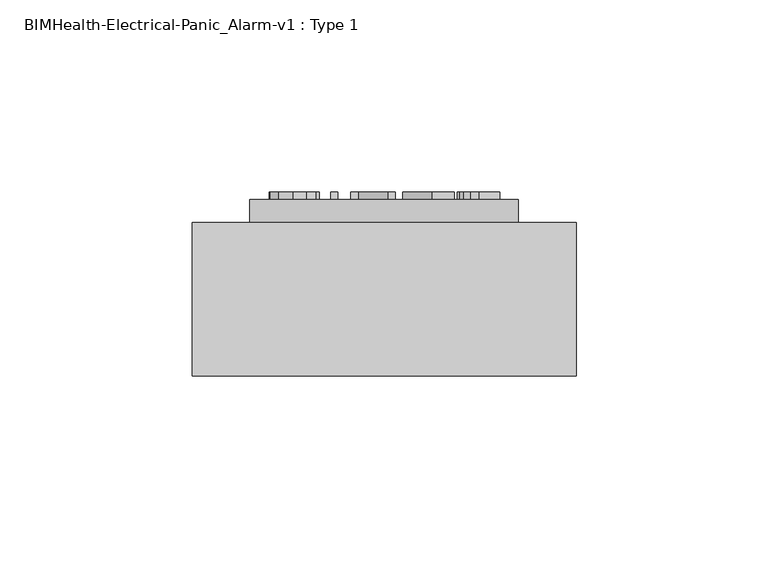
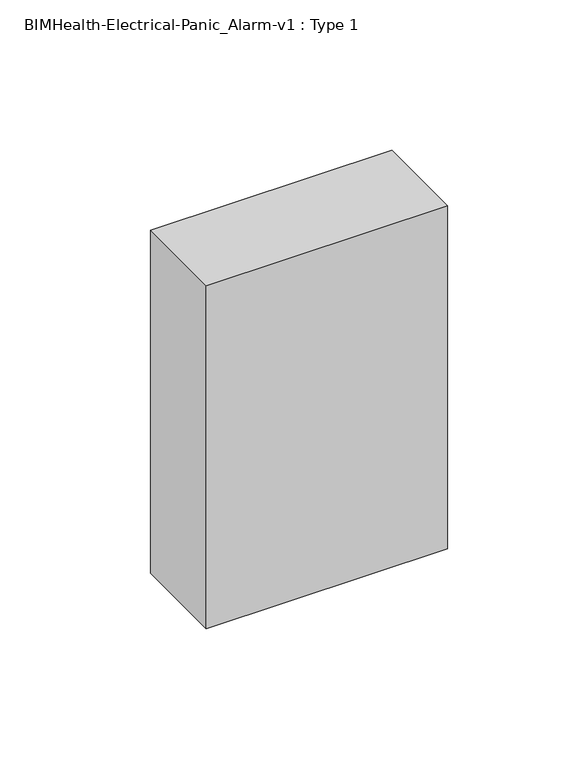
"""IFC4 building model written with IfcOpenShell, lengths in millimetres: proxy geometry, BIMHealth-Electrical-Panic_Alarm-v1 : Type 1."""

from ifc_helpers import new_model, si_unit, point, frame, frame_2d, origin, place, context, project, spatial, polyline, circle_curve, trimmed, segment, composite_curve, outline, extrude, source, transform, mapped, element, save


def bimhealth_electrical_panic_alarm_v1_type_1_f5d69f13(model_context):
    return source(origin(), model_context, "Body", "SweptSolid", [
        extrude(outline(composite_curve([segment(trimmed(circle_curve(frame_2d((1232.5, 175.0)), 20.0), [point((1232.5, 195.0))], [point((1232.5, 155.0))], False, "CARTESIAN"), True, "CONTINUOUS"), segment(trimmed(circle_curve(frame_2d((1232.5, 175.0)), 20.0), [point((1232.5, 155.0))], [point((1232.5, 195.0))], False, "CARTESIAN"), True, "CONTINUOUS")], self_intersect=False)), frame((0.0, 115.0, 0.0), z_axis=(0.0, 1.0, 0.0), x_axis=(0.0, 0.0, 1.0)), (0.0, 0.0, 1.0), 5.9487595),
        extrude(outline(composite_curve([segment(trimmed(circle_curve(frame_2d((1301.25, 175.0)), 35.0), [point((1301.25, 210.0))], [point((1301.25, 140.0))], False, "CARTESIAN"), True, "CONTINUOUS"), segment(trimmed(circle_curve(frame_2d((1301.25, 175.0)), 35.0), [point((1301.25, 140.0))], [point((1301.25, 210.0))], False, "CARTESIAN"), True, "CONTINUOUS")], self_intersect=False)), frame((0.0, 115.0, 0.0), z_axis=(0.0, 1.0, 0.0), x_axis=(0.0, 0.0, 1.0)), (0.0, 0.0, 1.0), 5.9487595),
        extrude(outline(polyline([(125.0, 75.0), (125.0, 115.0), (225.0, 115.0), (225.0, 75.0), (125.0, 75.0)])), frame((0.0, 0.0, 1200.0), z_axis=(0.0, 0.0, 1.0), x_axis=(1.0, 0.0, 0.0)), (0.0, 0.0, 1.0), 150.0),
        extrude(outline(polyline([(1293.6012751, 205.1753862), (1308.3705059, 205.1753862), (1308.3705059, 199.7018286), (1308.2298809, 197.4950978), (1307.5393761, 195.7012276), (1306.1114915, 194.538367), (1304.0976694, 194.0984632), (1300.9065636, 195.2865641), (1299.6012751, 199.5756266), (1299.6012751, 203.3292324), (1293.6012751, 203.3292324), (1293.6012751, 205.1753862)]), holes=[polyline([(1301.447429, 203.3292324), (1301.447429, 199.4674536), (1302.1253136, 196.7487036), (1304.0327655, 195.944617), (1305.5616117, 196.4187757), (1306.5243521, 199.5107228), (1306.5243521, 203.3292324), (1301.447429, 203.3292324)])]), frame((0.0, 120.9487595, 0.0), z_axis=(0.0, 1.0, 0.0), x_axis=(0.0, 0.0, 1.0)), (0.0, 0.0, 1.0), 2.0),
        extrude(outline(polyline([(1293.6012751, 193.2763478), (1308.3705059, 187.3809151), (1293.6012751, 179.9169728), (1293.6012751, 181.8676939), (1298.2166597, 183.5551939), (1298.2166597, 189.6417324), (1293.6012751, 191.3292324), (1293.6012751, 193.2763478)]), holes=[polyline([(1300.0628136, 188.9638478), (1300.0628136, 184.2294728), (1303.6938232, 185.5636074), (1306.5243521, 186.5984632), (1304.0111309, 187.5179343), (1300.0628136, 188.9638478)])]), frame((0.0, 120.9487595, 0.0), z_axis=(0.0, 1.0, 0.0), x_axis=(0.0, 0.0, 1.0)), (0.0, 0.0, 1.0), 2.0),
        extrude(outline(polyline([(1293.6012751, 177.944617), (1308.3705059, 177.944617), (1308.3705059, 175.9686555), (1296.6697847, 168.2523093), (1308.3705059, 168.2523093), (1308.3705059, 166.4061555), (1293.6012751, 166.4061555), (1293.6012751, 168.382117), (1305.3056021, 176.0984632), (1293.6012751, 176.0984632), (1293.6012751, 177.944617)])), frame((0.0, 120.9487595, 0.0), z_axis=(0.0, 1.0, 0.0), x_axis=(0.0, 0.0, 1.0)), (0.0, 0.0, 1.0), 2.0),
        extrude(outline(polyline([(161.0984632, 122.9487595), (162.944617, 122.9487595), (162.944617, 120.9487595), (161.0984632, 120.9487595), (161.0984632, 122.9487595)])), frame((0.0, 0.0, 1293.6012751), z_axis=(0.0, 0.0, 1.0), x_axis=(1.0, 0.0, 0.0)), (0.0, 0.0, 1.0), 14.7692308),
        extrude(outline(polyline([(1298.8512751, 147.0215401), (1298.3753136, 145.1753862), (1294.6523569, 147.3640882), (1293.3705059, 151.2294728), (1294.3404578, 155.0714199), (1297.1493521, 157.3250257), (1301.0976694, 158.0984632), (1305.1108905, 157.2240641), (1307.712453, 154.7378862), (1308.6012751, 151.1898093), (1307.4510347, 147.492093), (1304.213054, 145.4061555), (1303.7731501, 147.2523093), (1306.0429819, 148.7667324), (1306.7551213, 151.2619247), (1305.9654578, 154.1501459), (1303.8452655, 155.7817564), (1301.1012751, 156.2523093), (1297.9209867, 155.695218), (1295.8891357, 153.960843), (1295.2166597, 151.413367), (1296.1325251, 148.5882468), (1298.8512751, 147.0215401)])), frame((0.0, 120.9487595, 0.0), z_axis=(0.0, 1.0, 0.0), x_axis=(0.0, 0.0, 1.0)), (0.0, 0.0, 1.0), 2.0),
    ])


if __name__ == "__main__":
    model = new_model("IFC4")
    model_context = context("Model", 3, world=origin())
    ifc_project = project(units=[si_unit("LENGTHUNIT", "METRE", prefix="MILLI")], contexts=[model_context])
    site = spatial("IfcSite", under=ifc_project)
    building = spatial("IfcBuilding", under=site)
    placement = place(None, origin())
    bimhealth_electrical_panic_alarm_v1_type_1_shape = bimhealth_electrical_panic_alarm_v1_type_1_f5d69f13(model_context)
    element("IfcBuildingElementProxy", 1, Name="BIMHealth-Electrical-Panic_Alarm-v1 : Type 1", ObjectType="BIMHealth-Electrical-Panic_Alarm-v1 : Type 1", at=placement, inside=building, context=model_context, shape_type="MappedRepresentation", body=[
        mapped(bimhealth_electrical_panic_alarm_v1_type_1_shape, transform((0.0, 0.0, 0.0), x_axis=(1.0, 0.0, 0.0), y_axis=(0.0, 1.0, 0.0), z_axis=(0.0, 0.0, 1.0))),
    ])
    save(model, "model.ifc")
